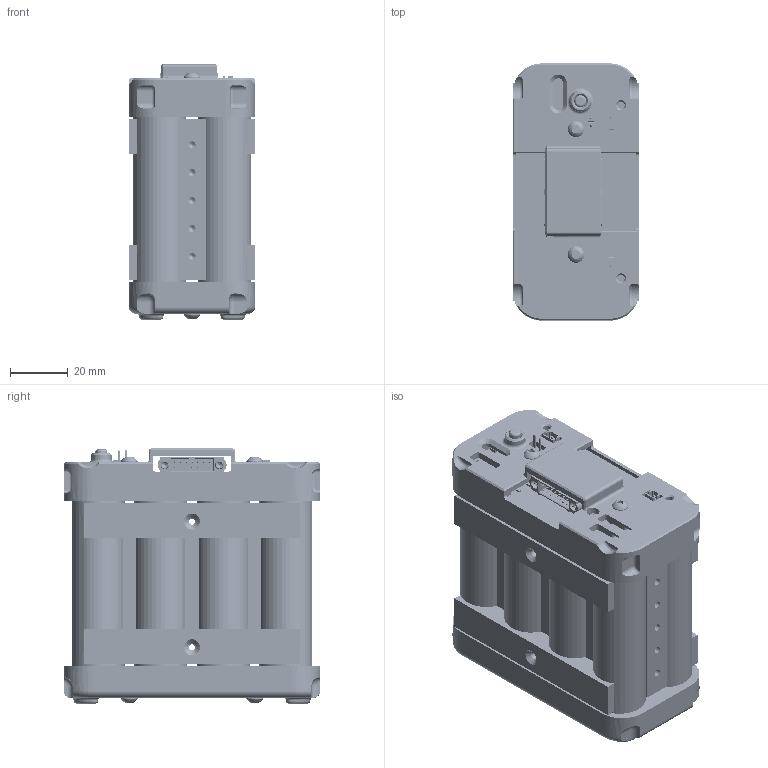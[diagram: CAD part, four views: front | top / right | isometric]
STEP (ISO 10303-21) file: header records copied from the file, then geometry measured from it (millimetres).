
FILE_DESCRIPTION (( 'STEP AP214' ), '1' );
FILE_NAME ('710-01552 Battery Module 2 Rev F Opt 01(MidFi).STEP', '2020-06-26T22:19:20', ( 'test' ), ( 'Hewlett-Packard Company' ), 'SwSTEP 2.0', 'SolidWorks 2014', '' );
FILE_SCHEMA (( 'AUTOMOTIVE_DESIGN' ));
Length unit declared in the file: inch
Products named in the file (1): 710-01552 Battery Module 2 Rev F Opt 01(MidFi)
Bounding box: 44.12 x 89.3 x 88.77 mm (x, y, z)
Volume: 253744.5 mm3; surface area: 62122.8 mm2
Topology: 1 solids, 6 shells, 4099 faces, 11432 edges, 7315 vertices
Faces by surface type: plane 1950, cylinder 959, cone 574, torus 404, bspline 200, sphere 12
Entity records: 172155 total; most frequent: CARTESIAN_POINT 55696, ORIENTED_EDGE 22800, DIRECTION 21224, EDGE_CURVE 11400, AXIS2_PLACEMENT_3D 7451, VERTEX_POINT 7315, VECTOR 6322, LINE 6322
